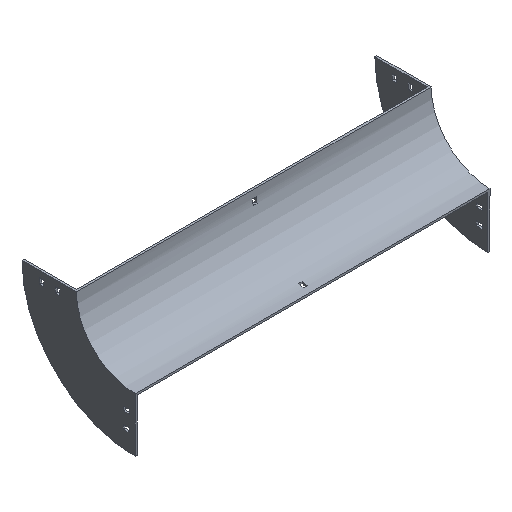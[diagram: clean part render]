
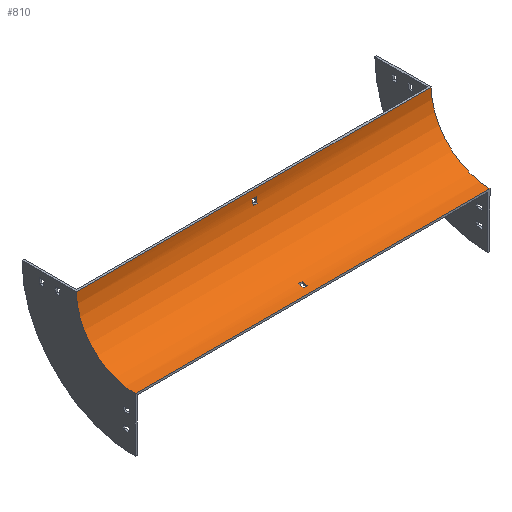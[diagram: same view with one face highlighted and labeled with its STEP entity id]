
A CAD part, isometric view. The second image highlights one B-rep face of the part: STEP entity #810.
In plain terms, the highlighted cylindrical face has radius 100 mm (diameter 200 mm), a partial arc.
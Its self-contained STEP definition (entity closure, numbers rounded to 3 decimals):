
#25 = CARTESIAN_POINT ( 'NONE',  ( -302., 0., 0. ) ) ;
#29 = CARTESIAN_POINT ( 'NONE',  ( 302., 0., 0. ) ) ;
#53 = EDGE_CURVE ( 'NONE', #1634, #70, #1651, .T. ) ;
#70 = VERTEX_POINT ( 'NONE', #1001 ) ;
#79 = DIRECTION ( 'NONE',  ( 1., 0., 0. ) ) ;
#90 = FACE_BOUND ( 'NONE', #1560, .T. ) ;
#127 = VECTOR ( 'NONE', #884, 1000. ) ;
#155 = CARTESIAN_POINT ( 'NONE',  ( -3.25, -2.23, -21. ) ) ;
#159 = VERTEX_POINT ( 'NONE', #25 ) ;
#206 = ORIENTED_EDGE ( 'NONE', *, *, #631, .T. ) ;
#214 = CARTESIAN_POINT ( 'NONE',  ( 302., -88., -99.277 ) ) ;
#219 = ORIENTED_EDGE ( 'NONE', *, *, #497, .F. ) ;
#225 = ORIENTED_EDGE ( 'NONE', *, *, #1399, .T. ) ;
#233 = CARTESIAN_POINT ( 'NONE',  ( 3.25, -100., 0. ) ) ;
#277 = CARTESIAN_POINT ( 'NONE',  ( -3.25, -100., 0. ) ) ;
#300 = LINE ( 'NONE', #671, #1539 ) ;
#304 = ORIENTED_EDGE ( 'NONE', *, *, #1236, .F. ) ;
#309 = ORIENTED_EDGE ( 'NONE', *, *, #327, .T. ) ;
#319 = VERTEX_POINT ( 'NONE', #349 ) ;
#327 = EDGE_CURVE ( 'NONE', #877, #319, #1091, .T. ) ;
#338 = DIRECTION ( 'NONE',  ( 0., 0., 1. ) ) ;
#339 = VERTEX_POINT ( 'NONE', #1132 ) ;
#349 = CARTESIAN_POINT ( 'NONE',  ( 3.25, -0.723, -12. ) ) ;
#366 = EDGE_CURVE ( 'NONE', #70, #1645, #1653, .T. ) ;
#448 = DIRECTION ( 'NONE',  ( 1., 0., 0. ) ) ;
#450 = CARTESIAN_POINT ( 'NONE',  ( -3.25, -79., -97.77 ) ) ;
#467 = CARTESIAN_POINT ( 'NONE',  ( 302., -79., -97.77 ) ) ;
#469 = CIRCLE ( 'NONE', #1648, 100. ) ;
#473 = CARTESIAN_POINT ( 'NONE',  ( 302., -100., 0. ) ) ;
#475 = CARTESIAN_POINT ( 'NONE',  ( 302., -100., -100. ) ) ;
#482 = DIRECTION ( 'NONE',  ( 0., 0., 1. ) ) ;
#493 = CARTESIAN_POINT ( 'NONE',  ( 3.25, -79., -97.77 ) ) ;
#496 = DIRECTION ( 'NONE',  ( 1., 0., 0. ) ) ;
#497 = EDGE_CURVE ( 'NONE', #754, #1370, #1592, .T. ) ;
#577 = DIRECTION ( 'NONE',  ( -1., 0., 0. ) ) ;
#585 = CARTESIAN_POINT ( 'NONE',  ( -302., -100., 0. ) ) ;
#589 = AXIS2_PLACEMENT_3D ( 'NONE', #585, #1255, #1541 ) ;
#592 = LINE ( 'NONE', #214, #645 ) ;
#608 = AXIS2_PLACEMENT_3D ( 'NONE', #1545, #1388, #482 ) ;
#631 = EDGE_CURVE ( 'NONE', #1634, #159, #1615, .T. ) ;
#636 = VECTOR ( 'NONE', #867, 1000. ) ;
#645 = VECTOR ( 'NONE', #496, 1000. ) ;
#671 = CARTESIAN_POINT ( 'NONE',  ( 302., -2.23, -21. ) ) ;
#677 = EDGE_LOOP ( 'NONE', ( #1409, #742, #309, #225 ) ) ;
#686 = CARTESIAN_POINT ( 'NONE',  ( -302., -100., -100. ) ) ;
#718 = EDGE_CURVE ( 'NONE', #339, #1383, #300, .T. ) ;
#742 = ORIENTED_EDGE ( 'NONE', *, *, #844, .T. ) ;
#746 = DIRECTION ( 'NONE',  ( -1., 0., 0. ) ) ;
#754 = VERTEX_POINT ( 'NONE', #450 ) ;
#768 = VECTOR ( 'NONE', #448, 1000. ) ;
#795 = DIRECTION ( 'NONE',  ( 0., 1., 0. ) ) ;
#806 = DIRECTION ( 'NONE',  ( -1., 0., 0. ) ) ;
#810 = ADVANCED_FACE ( 'NONE', ( #981, #1237, #90 ), #1515, .F. ) ;
#844 = EDGE_CURVE ( 'NONE', #1383, #877, #469, .T. ) ;
#853 = VERTEX_POINT ( 'NONE', #493 ) ;
#867 = DIRECTION ( 'NONE',  ( -1., 0., 0. ) ) ;
#873 = CARTESIAN_POINT ( 'NONE',  ( -3.25, -0.723, -12. ) ) ;
#877 = VERTEX_POINT ( 'NONE', #873 ) ;
#884 = DIRECTION ( 'NONE',  ( -1., 0., 0. ) ) ;
#916 = CIRCLE ( 'NONE', #1026, 100. ) ;
#929 = ORIENTED_EDGE ( 'NONE', *, *, #53, .F. ) ;
#939 = AXIS2_PLACEMENT_3D ( 'NONE', #1524, #975, #1193 ) ;
#955 = AXIS2_PLACEMENT_3D ( 'NONE', #473, #746, #338 ) ;
#975 = DIRECTION ( 'NONE',  ( -1., 0., 0. ) ) ;
#981 = FACE_OUTER_BOUND ( 'NONE', #1389, .T. ) ;
#982 = VECTOR ( 'NONE', #806, 1000. ) ;
#1001 = CARTESIAN_POINT ( 'NONE',  ( 302., -100., -100. ) ) ;
#1026 = AXIS2_PLACEMENT_3D ( 'NONE', #233, #1115, #1239 ) ;
#1091 = LINE ( 'NONE', #1619, #768 ) ;
#1093 = ORIENTED_EDGE ( 'NONE', *, *, #1288, .T. ) ;
#1104 = CARTESIAN_POINT ( 'NONE',  ( -3.25, -88., -99.277 ) ) ;
#1105 = LINE ( 'NONE', #467, #127 ) ;
#1115 = DIRECTION ( 'NONE',  ( 1., 0., 0. ) ) ;
#1124 = AXIS2_PLACEMENT_3D ( 'NONE', #277, #1352, #795 ) ;
#1132 = CARTESIAN_POINT ( 'NONE',  ( 3.25, -2.23, -21. ) ) ;
#1138 = ORIENTED_EDGE ( 'NONE', *, *, #1263, .F. ) ;
#1142 = CARTESIAN_POINT ( 'NONE',  ( -3.25, -100., 0. ) ) ;
#1193 = DIRECTION ( 'NONE',  ( 0., 0., -1. ) ) ;
#1209 = ORIENTED_EDGE ( 'NONE', *, *, #1281, .F. ) ;
#1219 = CARTESIAN_POINT ( 'NONE',  ( 302., 0., 0. ) ) ;
#1236 = EDGE_CURVE ( 'NONE', #853, #754, #1105, .T. ) ;
#1237 = FACE_BOUND ( 'NONE', #677, .T. ) ;
#1239 = DIRECTION ( 'NONE',  ( 0., -1., 0. ) ) ;
#1240 = ORIENTED_EDGE ( 'NONE', *, *, #366, .F. ) ;
#1255 = DIRECTION ( 'NONE',  ( -1., 0., 0. ) ) ;
#1263 = EDGE_CURVE ( 'NONE', #1370, #1528, #592, .T. ) ;
#1281 = EDGE_CURVE ( 'NONE', #1528, #853, #916, .T. ) ;
#1288 = EDGE_CURVE ( 'NONE', #159, #1645, #1357, .T. ) ;
#1352 = DIRECTION ( 'NONE',  ( -1., 0., 0. ) ) ;
#1357 = CIRCLE ( 'NONE', #589, 100. ) ;
#1370 = VERTEX_POINT ( 'NONE', #1104 ) ;
#1383 = VERTEX_POINT ( 'NONE', #155 ) ;
#1388 = DIRECTION ( 'NONE',  ( -1., 0., 0. ) ) ;
#1389 = EDGE_LOOP ( 'NONE', ( #1093, #1240, #929, #206 ) ) ;
#1399 = EDGE_CURVE ( 'NONE', #319, #339, #1660, .T. ) ;
#1409 = ORIENTED_EDGE ( 'NONE', *, *, #718, .T. ) ;
#1515 = CYLINDRICAL_SURFACE ( 'NONE', #955, 100. ) ;
#1524 = CARTESIAN_POINT ( 'NONE',  ( 3.25, -100., 0. ) ) ;
#1528 = VERTEX_POINT ( 'NONE', #1664 ) ;
#1539 = VECTOR ( 'NONE', #577, 1000. ) ;
#1541 = DIRECTION ( 'NONE',  ( 0., 0., 1. ) ) ;
#1545 = CARTESIAN_POINT ( 'NONE',  ( 302., -100., 0. ) ) ;
#1560 = EDGE_LOOP ( 'NONE', ( #219, #304, #1209, #1138 ) ) ;
#1592 = CIRCLE ( 'NONE', #1124, 100. ) ;
#1615 = LINE ( 'NONE', #1219, #982 ) ;
#1619 = CARTESIAN_POINT ( 'NONE',  ( 302., -0.723, -12. ) ) ;
#1634 = VERTEX_POINT ( 'NONE', #29 ) ;
#1645 = VERTEX_POINT ( 'NONE', #686 ) ;
#1648 = AXIS2_PLACEMENT_3D ( 'NONE', #1142, #79, #1670 ) ;
#1651 = CIRCLE ( 'NONE', #608, 100. ) ;
#1653 = LINE ( 'NONE', #475, #636 ) ;
#1660 = CIRCLE ( 'NONE', #939, 100. ) ;
#1664 = CARTESIAN_POINT ( 'NONE',  ( 3.25, -88., -99.277 ) ) ;
#1670 = DIRECTION ( 'NONE',  ( 0., 0., 1. ) ) ;
